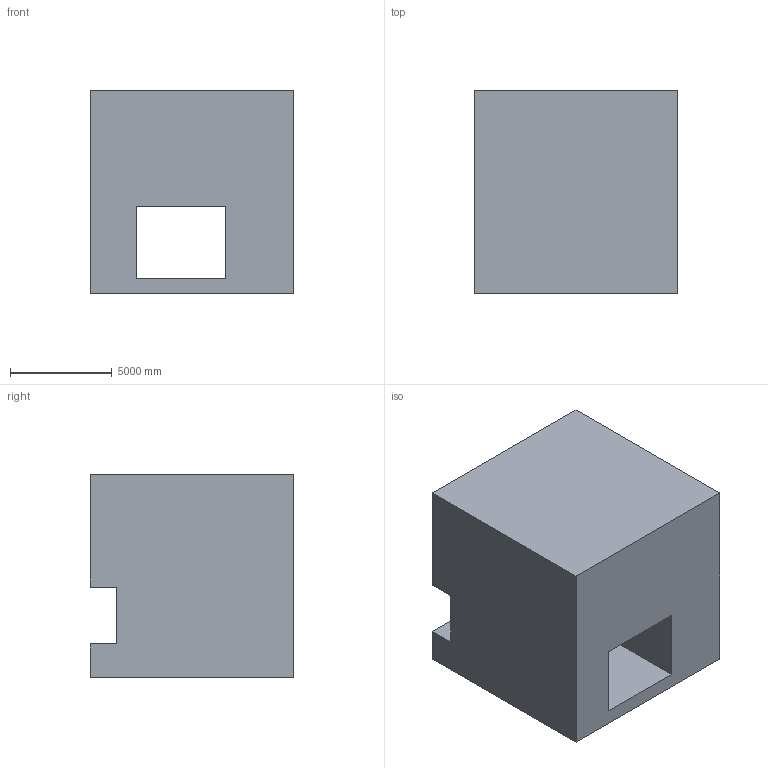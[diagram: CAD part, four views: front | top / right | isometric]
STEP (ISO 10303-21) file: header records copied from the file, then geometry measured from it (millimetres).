
FILE_DESCRIPTION (( 'STEP AP203' ), '1' );
FILE_NAME ('167.STEP', '2022-07-28T13:47:38', ( 'user' ), ( '' ), 'SwSTEP 2.0', 'SolidWorks 2021', '' );
FILE_SCHEMA (( 'CONFIG_CONTROL_DESIGN' ));
Length unit declared in the file: centimetre
Products named in the file (1): 167
Bounding box: 10000 x 10000 x 10000 mm (x, y, z)
Volume: 822691145433.3 mm3; surface area: 728180860.5 mm2
Topology: 1 solids, 1 shells, 15 faces, 42 edges, 28 vertices
Faces by surface type: plane 15
Entity records: 557 total; most frequent: CARTESIAN_POINT 86, ORIENTED_EDGE 84, DIRECTION 74, LINE 42, EDGE_CURVE 42, VECTOR 42, VERTEX_POINT 28, AXIS2_PLACEMENT_3D 16
